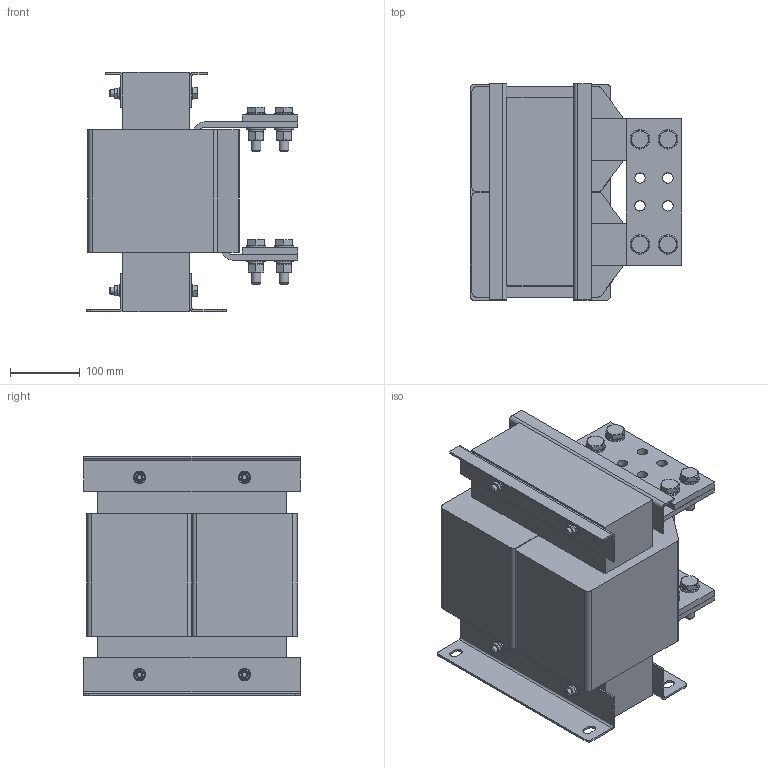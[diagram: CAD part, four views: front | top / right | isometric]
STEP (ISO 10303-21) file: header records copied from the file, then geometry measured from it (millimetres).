
FILE_DESCRIPTION(('STEP AP203'), '1');
FILE_NAME('DC-800-04 _ Äðîññåëü ïîñòîÿííîãî òîêà', '', ('UNSPECIFIED'), ('UNSPECIFIED'), 'C3D Converter', 'C3D Toolkit', '');
FILE_SCHEMA(('CONFIG_CONTROL_DESIGN'));
Length unit declared in the file: millimetre
Products named in the file (11): DC-800-04
Assembly tree (60 placements, depth 2):
  DC-800-04
    (unnamed)  x16
    (unnamed)  x8
    (unnamed)  x4
    (unnamed)  x4
    (unnamed)  x8
    (unnamed)  x4
    (unnamed)  x4
    (unnamed)  x4
    (unnamed)  x4
    (unnamed)  x4
Bounding box: 303.5 x 310 x 343 mm (x, y, z)
Volume: 16296735 mm3; surface area: 970797.4 mm2
Topology: 67 solids, 67 shells, 752 faces, 1624 edges, 1020 vertices
Faces by surface type: plane 448, cylinder 180, cone 112, torus 12
Full cylindrical faces by diameter (mm): 8.376 x4, 10 x4, 10.5 x8, 11 x12, 11.835 x8, 14 x16, 15 x24, 16 x8, 18 x8, 24 x8, 28 x16
Entity records: 13608 total; most frequent: CARTESIAN_POINT 3768, DIRECTION 1448, ORIENTED_EDGE 1244, EDGE_CURVE 622, AXIS2_PLACEMENT_3D 552, VERTEX_POINT 444, EDGE_LOOP 438, LINE 344
